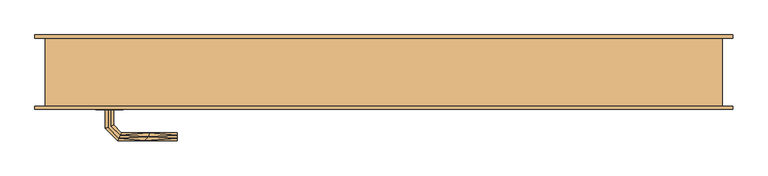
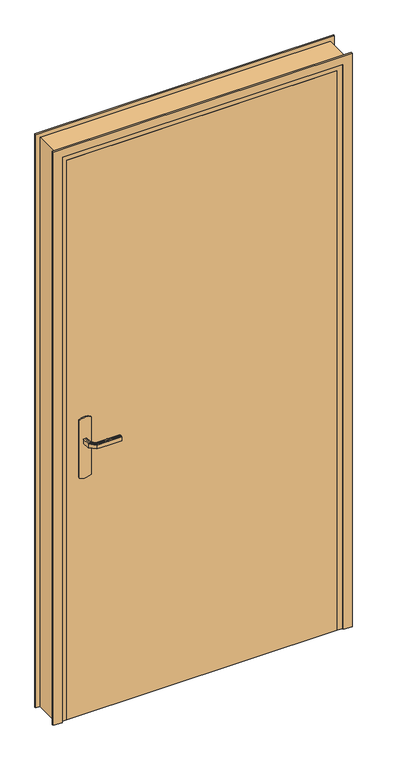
"""IFC4 building model written with IfcOpenShell, lengths in millimetres: door geometry, Portes - Int. Simple - PP (0.89m x 2.04m) (2)."""

from ifc_helpers import new_model, si_unit, point, frame, frame_2d, origin, origin_with_axes, place, context, project, spatial, polyline, circle_curve, trimmed, segment, composite_curve, outline, extrude, faceted_brep, source, transform, mapped, element, save


def door_a5923646(model_context):
    return source(origin(), model_context, "Body", "SolidModel", [
        extrude(outline(composite_curve([segment(trimmed(circle_curve(frame_2d((1045.3589838, 95.0)), 40.0), [point((1080.0, 115.0))], [point((1080.0, 75.0))], False, "CARTESIAN"), True, "CONTINUOUS"), segment(polyline([(1080.0, 75.0), (870.0, 75.0)]), True, "CONTINUOUS"), segment(trimmed(circle_curve(frame_2d((904.6410162, 95.0)), 40.0), [point((870.0, 75.0))], [point((870.0, 115.0))], False, "CARTESIAN"), True, "CONTINUOUS"), segment(polyline([(870.0, 115.0), (1080.0, 115.0)]), True, "CONTINUOUS")], self_intersect=False)), frame((0.0, 40.0, 0.0), z_axis=(0.0, 1.0, 0.0), x_axis=(0.0, 0.0, 1.0)), (0.0, 0.0, 1.0), 5.0),
        extrude(outline(polyline([(35.0, 40.0), (965.0, 40.0), (965.0, 0.0), (35.0, 0.0), (35.0, 40.0)])), origin_with_axes(), (0.0, 0.0, 1.0), 2040.0),
        extrude(outline(polyline([(0.0, -15.0), (0.0, 15.0), (2060.0, 15.0), (2060.0, 985.0), (0.0, 985.0), (0.0, 1015.0), (2090.0, 1015.0), (2090.0, -15.0), (0.0, -15.0)])), frame((0.0, 100.0, 0.0), z_axis=(0.0, 1.0, 0.0), x_axis=(0.0, 0.0, 1.0)), (0.0, 0.0, 1.0), 5.0),
        extrude(outline(polyline([(0.0, -15.0), (0.0, 15.0), (2060.0, 15.0), (2060.0, 985.0), (0.0, 985.0), (0.0, 1015.0), (2090.0, 1015.0), (2090.0, -15.0), (0.0, -15.0)])), frame((0.0, -5.0, 0.0), z_axis=(0.0, 1.0, 0.0), x_axis=(0.0, 0.0, 1.0)), (0.0, 0.0, 1.0), 5.0),
        faceted_brep([(89.0, -5.0, 1007.0), (92.9747013, -5.0, 1007.7804408), (97.0252987, -5.0, 1007.7804408), (101.0, -5.0, 1007.0), (101.0, -5.0, 993.0), (97.0252987, -5.0, 992.2195592), (92.9747013, -5.0, 992.2195592), (89.0, -5.0, 993.0), (89.0, -32.6509507, 1007.0), (92.9747013, -31.0045755, 1007.7804408), (109.0235852, -47.0534593, 1007.7804408), (110.7013975, -43.002862, 1007.7804408), (97.0252987, -29.3267632, 1007.7804408), (101.0, -27.680388, 1007.0), (101.0, -27.680388, 993.0), (97.0252987, -29.3267632, 992.2195592), (110.7013975, -43.002862, 992.2195592), (109.0235852, -47.0534593, 992.2195592), (92.9747013, -31.0045755, 992.2195592), (89.0, -32.6509507, 993.0), (107.37721, -51.0281607, 1007.0), (112.3477727, -39.0281607, 1007.0), (112.3477727, -39.0281607, 993.0), (107.37721, -51.0281607, 993.0), (195.0186406, -51.0281607, 1007.0), (195.0186406, -51.0281607, 993.0), (195.0186406, -47.0534593, 992.2195592), (195.0186406, -43.002862, 992.2195592), (195.0186406, -39.0281607, 993.0), (195.0186406, -39.0281607, 1007.0), (195.0186406, -43.002862, 1007.7804408), (195.0186406, -47.0534593, 1007.7804408), (152.8600191, -45.0281607, 1007.8786868), (147.3076972, -51.0281607, 1007.0), (153.6832067, -39.0281607, 1007.0), (153.6832067, -39.0281607, 993.0), (152.8600189, -45.0281608, 992.1213132), (147.3077002, -51.0281607, 993.0)], [[[0, 1, 2, 3, 4, 5, 6, 7]], [[0, 8, 9, 1]], [[1, 9, 10, 11, 12, 2]], [[2, 12, 13, 3]], [[14, 4, 3, 13]], [[4, 14, 15, 5]], [[5, 15, 16, 17, 18, 6]], [[6, 18, 19, 7]], [[8, 0, 7, 19]], [[8, 20, 10, 9]], [[12, 11, 21, 13]], [[22, 14, 13, 21]], [[14, 22, 16, 15]], [[18, 17, 23, 19]], [[20, 8, 19, 23]], [[24, 25, 26, 27, 28, 29, 30, 31]], [[32, 33, 31]], [[33, 24, 31]], [[33, 10, 20]], [[11, 32, 34]], [[34, 21, 11]], [[29, 34, 30]], [[32, 31, 30]], [[32, 30, 34]], [[32, 10, 33]], [[11, 10, 32]], [[35, 22, 21, 34, 29, 28]], [[36, 35, 27]], [[26, 37, 36]], [[16, 22, 35]], [[27, 35, 28]], [[26, 25, 37]], [[37, 23, 17]], [[36, 37, 17]], [[36, 17, 16]], [[36, 16, 35]], [[27, 26, 36]], [[33, 20, 23, 37, 25, 24]]]),
        faceted_brep([(97.0252987, 45.0, 1007.7804408), (92.9747013, 45.0, 1007.7804408), (89.0, 45.0, 1007.0), (89.0, 45.0, 993.0), (92.9747013, 45.0, 992.2195592), (97.0252987, 45.0, 992.2195592), (101.0, 45.0, 993.0), (101.0, 45.0, 1007.0), (101.0, 67.4852045, 1007.0), (101.0, 67.4852045, 993.0), (97.0252987, 69.1315797, 1007.7804408), (110.8389062, 82.9451872, 1007.7804408), (109.1610938, 86.9957845, 1007.7804408), (92.9747013, 70.8093921, 1007.7804408), (89.0, 72.4557673, 1007.0), (89.0, 72.4557673, 993.0), (92.9747013, 70.8093921, 992.2195592), (109.1610938, 86.9957845, 992.2195592), (110.8389062, 82.9451872, 992.2195592), (97.0252987, 69.1315797, 992.2195592), (112.4852814, 78.9704859, 1007.0), (112.4852814, 78.9704859, 993.0), (107.5147186, 90.9704859, 1007.0), (107.5147186, 90.9704859, 993.0), (195.0457837, 78.9704859, 1007.0), (195.0457837, 78.9704859, 993.0), (195.0457837, 82.9451872, 992.2195592), (195.0457837, 86.9957845, 992.2195592), (195.0457837, 90.9704859, 993.0), (195.0457837, 90.9704859, 1007.0), (195.0457837, 86.9957845, 1007.7804408), (195.0457837, 82.9451872, 1007.7804408), (153.7655325, 78.9704859, 1007.0), (153.7655206, 78.9704859, 993.0), (152.9423449, 84.9704859, 1007.8786868), (147.4452058, 90.9704859, 1007.0), (147.4452043, 90.9704859, 993.0), (152.9423451, 84.9704858, 992.1213132)], [[[0, 1, 2, 3, 4, 5, 6, 7]], [[8, 7, 6, 9]], [[7, 8, 10, 0]], [[0, 10, 11, 12, 13, 1]], [[1, 13, 14, 2]], [[15, 3, 2, 14]], [[3, 15, 16, 4]], [[4, 16, 17, 18, 19, 5]], [[5, 19, 9, 6]], [[20, 8, 9, 21]], [[8, 20, 11, 10]], [[13, 12, 22, 14]], [[23, 15, 14, 22]], [[15, 23, 17, 16]], [[19, 18, 21, 9]], [[24, 25, 26, 27, 28, 29, 30, 31]], [[32, 20, 21, 33, 25, 24]], [[34, 32, 31]], [[30, 35, 34]], [[11, 20, 32]], [[31, 32, 24]], [[30, 29, 35]], [[35, 22, 12]], [[34, 35, 12]], [[34, 12, 11]], [[34, 11, 32]], [[31, 30, 34]], [[23, 22, 35, 29, 28, 36]], [[37, 36, 27]], [[36, 28, 27]], [[36, 17, 23]], [[18, 37, 33]], [[33, 21, 18]], [[25, 33, 26]], [[37, 27, 26]], [[37, 26, 33]], [[37, 17, 36]], [[18, 17, 37]]]),
        faceted_brep([(35.0, 0.0, 0.0), (0.0, 0.0, 0.0), (0.0, 100.0, 0.0), (50.0, 100.0, 0.0), (50.0, 40.0, 0.0), (35.0, 40.0, 0.0), (0.0, 100.0, 2075.0), (0.0, 0.0, 2075.0), (50.0, 100.0, 2025.0), (1000.0, 100.0, 2075.0), (1000.0, 100.0, 0.0), (950.0, 100.0, 0.0), (950.0, 100.0, 2025.0), (50.0, 40.0, 2025.0), (35.0, 40.0, 2040.0), (950.0, 40.0, 2025.0), (950.0, 40.0, 0.0), (965.0, 40.0, 0.0), (965.0, 40.0, 2040.0), (35.0, 0.0, 2040.0), (965.0, 0.0, 2040.0), (965.0, 0.0, 0.0), (1000.0, 0.0, 0.0), (1000.0, 0.0, 2075.0)], [[[0, 1, 2, 3, 4, 5]], [[6, 2, 1, 7]], [[8, 3, 2, 6, 9, 10, 11, 12]], [[13, 4, 3, 8]], [[14, 5, 4, 13, 15, 16, 17, 18]], [[19, 0, 5, 14]], [[7, 1, 0, 19, 20, 21, 22, 23]], [[10, 9, 23, 22]], [[10, 22, 21, 17, 16, 11]], [[16, 15, 12, 11]], [[21, 20, 18, 17]], [[9, 6, 7, 23]], [[15, 13, 8, 12]], [[20, 19, 14, 18]]]),
        extrude(outline(composite_curve([segment(trimmed(circle_curve(frame_2d((904.6410162, 95.0)), 40.0), [point((870.0, 75.0))], [point((870.0, 115.0))], False, "CARTESIAN"), True, "CONTINUOUS"), segment(polyline([(870.0, 115.0), (1080.0, 115.0)]), True, "CONTINUOUS"), segment(trimmed(circle_curve(frame_2d((1045.3589838, 95.0)), 40.0), [point((1080.0, 115.0))], [point((1080.0, 75.0))], False, "CARTESIAN"), True, "CONTINUOUS"), segment(polyline([(1080.0, 75.0), (870.0, 75.0)]), True, "CONTINUOUS")], self_intersect=False)), frame((0.0, -5.0, 0.0), z_axis=(0.0, 1.0, 0.0), x_axis=(0.0, 0.0, 1.0)), (0.0, 0.0, 1.0), 5.0),
    ])


if __name__ == "__main__":
    model = new_model("IFC4")
    model_context = context("Model", 3, world=origin())
    ifc_project = project(units=[si_unit("LENGTHUNIT", "METRE", prefix="MILLI")], contexts=[model_context])
    site = spatial("IfcSite", under=ifc_project)
    building = spatial("IfcBuilding", under=site)
    placement = place(None, origin())
    door_shape = door_a5923646(model_context)
    element("IfcDoor", 1, ObjectType="Portes - Int. Simple - PP (0.89m x 2.04m) (2)", at=placement, inside=building, context=model_context, shape_type="MappedRepresentation", body=[
        mapped(door_shape, transform((0.0, 0.0, 0.0), x_axis=(1.0, 0.0, 0.0), y_axis=(0.0, 1.0, 0.0), z_axis=(0.0, 0.0, 1.0))),
    ])
    save(model, "model.ifc")
